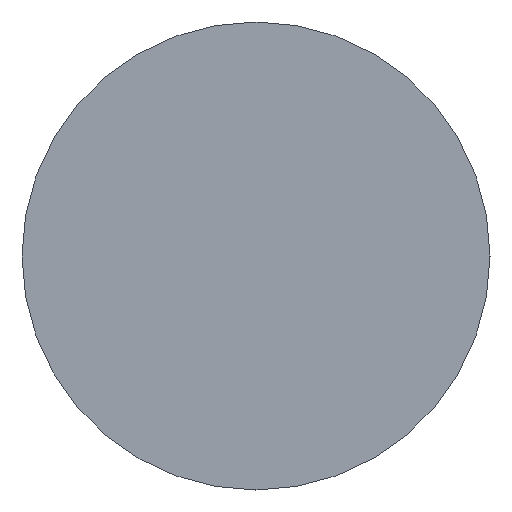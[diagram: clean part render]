
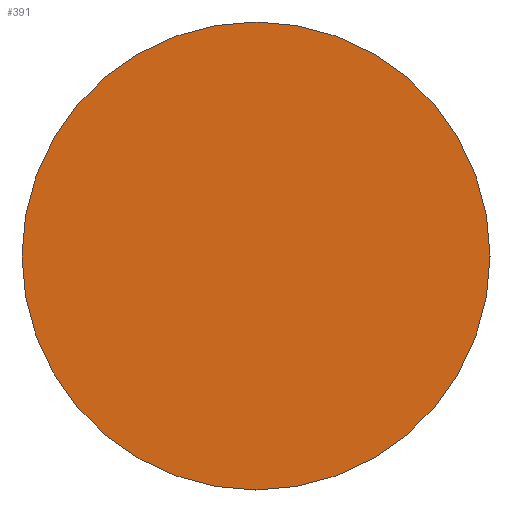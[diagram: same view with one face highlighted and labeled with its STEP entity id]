
A CAD part, left-side view. The second image highlights one B-rep face of the part: STEP entity #391.
In plain terms, the highlighted planar face has unit normal (-1, 0, 0).
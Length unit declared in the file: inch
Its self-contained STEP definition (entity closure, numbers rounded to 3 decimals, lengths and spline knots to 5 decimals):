
#19 = DIRECTION ( 'NONE',  ( 1., 0., 0. ) ) ;
#98 = AXIS2_PLACEMENT_3D ( 'NONE', #105, #109, #148 ) ;
#105 = CARTESIAN_POINT ( 'NONE',  ( -6., 0., 0. ) ) ;
#109 = DIRECTION ( 'NONE',  ( -1., 0., 0. ) ) ;
#143 = DIRECTION ( 'NONE',  ( -1., 0., 0. ) ) ;
#148 = DIRECTION ( 'NONE',  ( 0., 0., 1. ) ) ;
#167 = CARTESIAN_POINT ( 'NONE',  ( -6., 0., 0.1875 ) ) ;
#200 = CIRCLE ( 'NONE', #497, 0.1875 ) ;
#250 = FACE_OUTER_BOUND ( 'NONE', #280, .T. ) ;
#266 = AXIS2_PLACEMENT_3D ( 'NONE', #475, #19, #365 ) ;
#280 = EDGE_LOOP ( 'NONE', ( #486, #334 ) ) ;
#291 = DIRECTION ( 'NONE',  ( 0., 0., 1. ) ) ;
#328 = CARTESIAN_POINT ( 'NONE',  ( -6., 0., 0. ) ) ;
#334 = ORIENTED_EDGE ( 'NONE', *, *, #447, .T. ) ;
#349 = VERTEX_POINT ( 'NONE', #363 ) ;
#363 = CARTESIAN_POINT ( 'NONE',  ( -6., 0., -0.1875 ) ) ;
#365 = DIRECTION ( 'NONE',  ( 0., 0., -1. ) ) ;
#391 = ADVANCED_FACE ( 'NONE', ( #250 ), #410, .F. ) ;
#397 = CIRCLE ( 'NONE', #98, 0.1875 ) ;
#406 = VERTEX_POINT ( 'NONE', #167 ) ;
#410 = PLANE ( 'NONE',  #266 ) ;
#447 = EDGE_CURVE ( 'NONE', #349, #406, #397, .T. ) ;
#475 = CARTESIAN_POINT ( 'NONE',  ( -6., 0.1875, 0. ) ) ;
#486 = ORIENTED_EDGE ( 'NONE', *, *, #502, .T. ) ;
#497 = AXIS2_PLACEMENT_3D ( 'NONE', #328, #143, #291 ) ;
#502 = EDGE_CURVE ( 'NONE', #406, #349, #200, .T. ) ;
